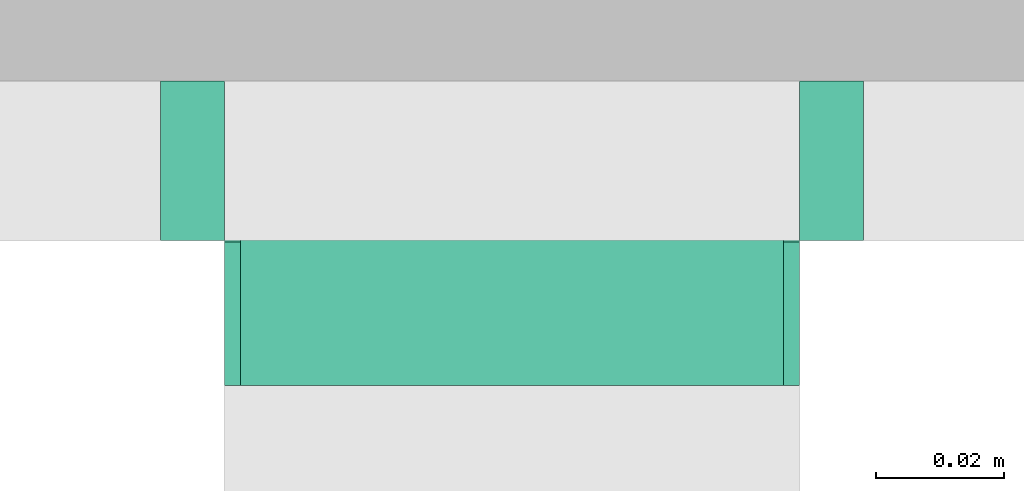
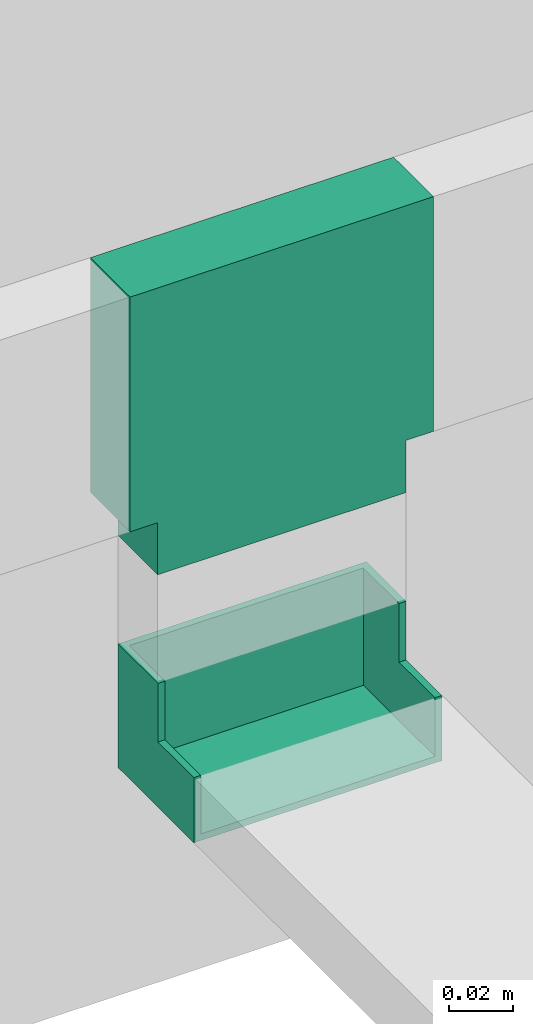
# One storey, part 19 of 87: 2 flow fittings.
"""IFC2X3 building model written with IfcOpenShell, lengths in millimetres."""

from ifc_helpers import new_model, entity, si_unit, converted_unit, derived_unit, direction, frame, origin, place, context, subcontext, project, spatial, faceted_brep, source, transform, mapped, material, type_object, type_shapes, element, save


model = new_model("IFC2X3")

# Units and contexts
model_context = context("Model", 3, precision=0.01, world=origin(), true_north=direction((6.12303176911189e-17, 1.0)))
body_context = subcontext(model_context, "Body", "Model", "MODEL_VIEW")
ifc_project = project(units=[si_unit("LENGTHUNIT", "METRE", prefix="MILLI"), si_unit("AREAUNIT", "SQUARE_METRE"), si_unit("VOLUMEUNIT", "CUBIC_METRE"), converted_unit("PLANEANGLEUNIT", "DEGREE", entity("IfcRatioMeasure", 0.0174532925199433), si_unit("PLANEANGLEUNIT", "RADIAN"), dimensions=[0, 0, 0, 0, 0, 0, 0]), si_unit("MASSUNIT", "GRAM", prefix="KILO"), derived_unit("MASSDENSITYUNIT", [(si_unit("MASSUNIT", "GRAM", prefix="KILO"), 1), (si_unit("LENGTHUNIT", "METRE"), -3)]), si_unit("TIMEUNIT", "SECOND"), si_unit("FREQUENCYUNIT", "HERTZ"), si_unit("THERMODYNAMICTEMPERATUREUNIT", "DEGREE_CELSIUS"), derived_unit("THERMALTRANSMITTANCEUNIT", [(si_unit("MASSUNIT", "GRAM", prefix="KILO"), 1), (si_unit("THERMODYNAMICTEMPERATUREUNIT", "KELVIN"), -1), (si_unit("TIMEUNIT", "SECOND"), -3)]), derived_unit("VOLUMETRICFLOWRATEUNIT", [(si_unit("LENGTHUNIT", "METRE"), 3), (si_unit("TIMEUNIT", "SECOND"), -1)]), si_unit("ELECTRICCURRENTUNIT", "AMPERE"), si_unit("ELECTRICVOLTAGEUNIT", "VOLT"), si_unit("POWERUNIT", "WATT"), si_unit("FORCEUNIT", "NEWTON", prefix="KILO"), si_unit("ILLUMINANCEUNIT", "LUX"), si_unit("LUMINOUSFLUXUNIT", "LUMEN"), si_unit("LUMINOUSINTENSITYUNIT", "CANDELA"), derived_unit("USERDEFINED", [(si_unit("MASSUNIT", "GRAM", prefix="KILO"), -1), (si_unit("LENGTHUNIT", "METRE"), -2), (si_unit("TIMEUNIT", "SECOND"), 3), (si_unit("LUMINOUSFLUXUNIT", "LUMEN"), 1)]), derived_unit("LINEARVELOCITYUNIT", [(si_unit("LENGTHUNIT", "METRE"), 1), (si_unit("TIMEUNIT", "SECOND"), -1)]), si_unit("PRESSUREUNIT", "PASCAL"), derived_unit("USERDEFINED", [(si_unit("LENGTHUNIT", "METRE"), -2), (si_unit("MASSUNIT", "GRAM", prefix="KILO"), 1), (si_unit("TIMEUNIT", "SECOND"), -2)])], contexts=[model_context])

# Site, building, storey
site_placement = place(None, origin())
site = spatial("IfcSite", under=ifc_project, at=site_placement, Name="Default", CompositionType="ELEMENT")
building_placement = place(site_placement, origin())
building = spatial("IfcBuilding", under=site, at=building_placement, Name="Наименование здания", CompositionType="ELEMENT")
storey_placement = place(building_placement, origin())
storey = spatial("IfcBuildingStorey", under=building, at=storey_placement, Name="Этаж 01", CompositionType="ELEMENT", Elevation=0.0)

# Flow fittings
ifc_material = material(Name="DKC_Пластик_Белый")
cable_carrier_fitting_type_1 = type_object("IfcCableCarrierFittingType", Name="Белый", PredefinedType="NOTDEFINED", material=ifc_material)
shared_shape_1 = source(origin(), body_context, "Body", "Brep", [
    faceted_brep([(-45.0, -45.0, 12.5), (-45.0, -65.0, 12.5), (45.0, -65.0, 12.5), (45.0, -45.0, 12.5), (55.0, -45.0, 12.5), (55.0, 45.0, 12.5), (-55.0, 45.0, 12.5), (-55.0, -45.0, 12.5), (-45.0, -45.0, -12.5), (-55.0, -45.0, -12.5), (-55.0, 45.0, -12.5), (55.0, 45.0, -12.5), (55.0, -45.0, -12.5), (45.0, -45.0, -12.5), (45.0, -65.0, -12.5), (-45.0, -65.0, -12.5)], [[[0, 1, 2, 3, 4, 5, 6, 7]], [[8, 9, 10, 11, 12, 13, 14, 15]], [[7, 9, 8, 0]], [[6, 10, 9, 7]], [[5, 11, 10, 6]], [[4, 12, 11, 5]], [[3, 13, 12, 4]], [[2, 14, 13, 3]], [[1, 15, 14, 2]], [[0, 8, 15, 1]]]),
    faceted_brep([(55.0, 42.4600000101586, -9.96000001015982), (-55.0, 42.4600000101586, -9.96000001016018), (-55.0, -42.4600000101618, -9.96000001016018), (-42.4600000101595, -42.4600000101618, -9.96000001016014), (-42.4600000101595, -65.0, -9.96000001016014), (42.4600000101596, -65.0, -9.96000001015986), (42.4600000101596, -42.4600000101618, -9.96000001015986), (55.0, -42.4600000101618, -9.96000001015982), (55.0, 45.0, -12.4999999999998), (55.0, -45.0, -12.4999999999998), (45.0, -45.0, -12.4999999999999), (45.0, -65.0, -12.4999999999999), (-45.0, -65.0, -12.5000000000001), (-45.0, -45.0, -12.5000000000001), (-55.0, -45.0, -12.5000000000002), (-55.0, 45.0, -12.5000000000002), (55.0, 45.0, 12.5000000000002), (55.0, 42.4600000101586, 12.5000000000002), (55.0, -42.4600000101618, 12.5000000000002), (55.0, -45.0, 12.5000000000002), (45.0, -45.0, 12.5000000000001), (44.9600000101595, -45.0, 12.5000000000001), (44.9600000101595, -65.0, 12.5000000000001), (42.4600000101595, -65.0, 12.5000000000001), (-42.4600000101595, -65.0, 12.4999999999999), (-45.0, -65.0, 12.4999999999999), (-44.9600000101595, -65.0, 12.4999999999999), (-44.9600000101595, -45.0, 12.4999999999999), (-55.0, -45.0, 12.4999999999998), (-55.0, -42.4600000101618, 12.4999999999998), (-55.0, 42.4600000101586, 12.4999999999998), (-55.0, 45.0, 12.4999999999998), (42.4600000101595, -42.4600000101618, 12.5000000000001), (-42.4600000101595, -42.4600000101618, 12.4999999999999)], [[[0, 1, 2, 3, 4, 5, 6, 7]], [[8, 9, 10, 11, 12, 13, 14, 15]], [[8, 16, 17, 0, 7, 18, 19, 9]], [[19, 20, 10, 9]], [[21, 22, 11, 10]], [[22, 23, 5, 4, 24, 25, 12, 11]], [[26, 27, 13, 12]], [[27, 28, 14, 13]], [[28, 29, 2, 1, 30, 31, 15, 14]], [[31, 16, 8, 15]], [[21, 19, 18, 32, 23, 22]], [[33, 3, 2, 29]], [[24, 4, 3, 33]], [[32, 6, 5, 23]], [[18, 7, 6, 32]], [[30, 1, 0, 17]], [[27, 26, 24, 33, 29, 28]], [[31, 30, 17, 16]]]),
])
type_shapes(cable_carrier_fitting_type_1, [shared_shape_1])
flow_fitting_1_placement = place(storey_placement, frame((-15407.2658098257, -3985.38925968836, 241.500000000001), z_axis=(0.0, -1.0, 0.0), x_axis=(1.0, 0.0, 0.0)))
element("IfcFlowFitting", 1, at=flow_fitting_1_placement, inside=storey, type_object=cable_carrier_fitting_type_1, material=ifc_material, Name="КНС_Тройник_ILF_DKC:Белый", ObjectType="Белый", context=body_context, shape_type="MappedRepresentation", body=[
    mapped(shared_shape_1, transform((0.0, 0.0, 0.0), scale=1.0)),
])
cable_carrier_fitting_type_2 = type_object("IfcCableCarrierFittingType", Name="Белый", PredefinedType="NOTDEFINED", material=ifc_material)
shared_shape_2 = source(origin(), body_context, "Body", "Brep", [
    faceted_brep([(-35.0, -12.4999999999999, 45.0), (-35.0, 12.5000000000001, 45.0), (-35.0, 12.5000000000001, 42.4600000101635), (-35.0, -9.96000001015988, 42.4600000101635), (-35.0, -9.96000001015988, -42.4600000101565), (-35.0, 12.5000000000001, -42.4600000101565), (-35.0, 12.5000000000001, -45.0), (-35.0, -12.4999999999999, -45.0), (12.5000000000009, 35.0, 45.0), (12.5000000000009, 35.0, -45.0), (-12.4999999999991, 35.0, -45.0), (-12.4999999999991, 35.0, -42.4600000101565), (9.96000001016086, 35.0, -42.4600000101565), (9.96000001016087, 35.0, 42.4600000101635), (-12.4999999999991, 35.0, 42.4600000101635), (-12.4999999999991, 35.0, 45.0), (12.5000000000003, -12.5, 45.0), (-12.4999999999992, 12.4999999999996, 45.0), (-12.4999999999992, 12.5, 42.4600000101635), (9.9600000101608, -9.9600000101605, 42.4600000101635), (9.9600000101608, -9.96000001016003, -42.4600000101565), (-12.4999999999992, 12.4999999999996, -42.4600000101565), (-12.4999999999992, 12.5, -45.0), (12.5000000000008, -12.5000000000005, -45.0)], [[[0, 1, 2, 3, 4, 5, 6, 7]], [[8, 9, 10, 11, 12, 13, 14, 15]], [[1, 0, 16, 8, 15, 17]], [[2, 1, 17, 18]], [[3, 2, 18, 14, 13, 19]], [[4, 3, 19, 20]], [[5, 4, 20, 12, 11, 21]], [[6, 5, 21, 22]], [[7, 6, 22, 10, 9, 23]], [[0, 7, 23, 16]], [[18, 17, 15, 14]], [[20, 19, 13, 12]], [[22, 21, 11, 10]], [[16, 23, 9, 8]]]),
])
type_shapes(cable_carrier_fitting_type_2, [shared_shape_2])
flow_fitting_2_placement = place(storey_placement, frame((-15407.2658098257, -3985.58925968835, 100.0), z_axis=(1.0, 0.0, 0.0), x_axis=(0.0, 1.0, 0.0)))
element("IfcFlowFitting", 2, at=flow_fitting_2_placement, inside=storey, type_object=cable_carrier_fitting_type_2, material=ifc_material, Name="КНС_УголВнутренний_ILF_DKC:Белый", ObjectType="Белый", context=body_context, shape_type="MappedRepresentation", body=[
    mapped(shared_shape_2, transform((0.0, 0.0, 0.0), scale=1.0)),
])

save(model, "model.ifc")
